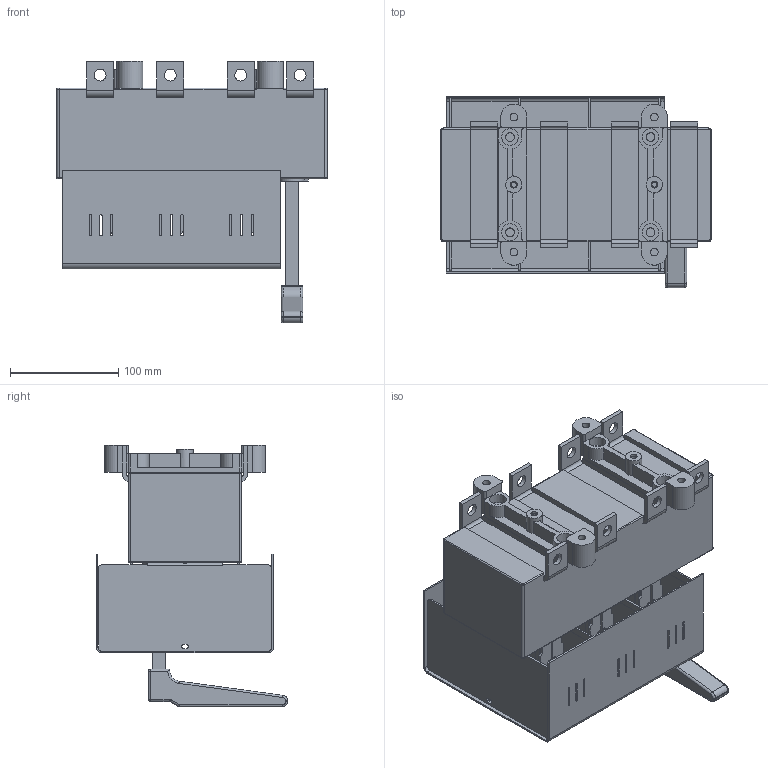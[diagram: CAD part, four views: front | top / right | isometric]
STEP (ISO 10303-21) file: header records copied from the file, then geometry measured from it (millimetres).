
FILE_DESCRIPTION(/* description */ (''),/* implementation_level */ '2;1');
FILE_NAME(/* name */ 'RAB 1 P3 NC-R.stp',/* time_stamp */ '2021-08-19T13:03:01+02:00',/* author */ (''),/* organization */ (''),/* preprocessor_version */ 'ST-DEVELOPER v18.1',/* originating_system */ 'SIEMENS PLM Software NX 1965',/* authorisation */ '');
FILE_SCHEMA (('AUTOMOTIVE_DESIGN { 1 0 10303 214 3 1 1 1 }'));
Length unit declared in the file: millimetre
Products named in the file (1): RAB 1 P3 NC-R_stp
Bounding box: 250 x 177 x 242.3 mm (x, y, z)
Volume: 2495884.8 mm3; surface area: 443417.2 mm2
Topology: 1 solids, 1 shells, 1088 faces, 2991 edges, 1932 vertices
Faces by surface type: plane 693, cylinder 373, torus 13, sphere 6, bspline 3
Full cylindrical faces by diameter (mm): 4.8 x2, 6.2 x2, 7 x4, 8.2 x4, 11 x8, 14 x4, 15 x2, 15.5 x4
Entity records: 34542 total; most frequent: CARTESIAN_POINT 6065, DIRECTION 5925, ORIENTED_EDGE 5902, EDGE_CURVE 2951, LINE 2133, VECTOR 2133, VERTEX_POINT 1928, AXIS2_PLACEMENT_3D 1896
